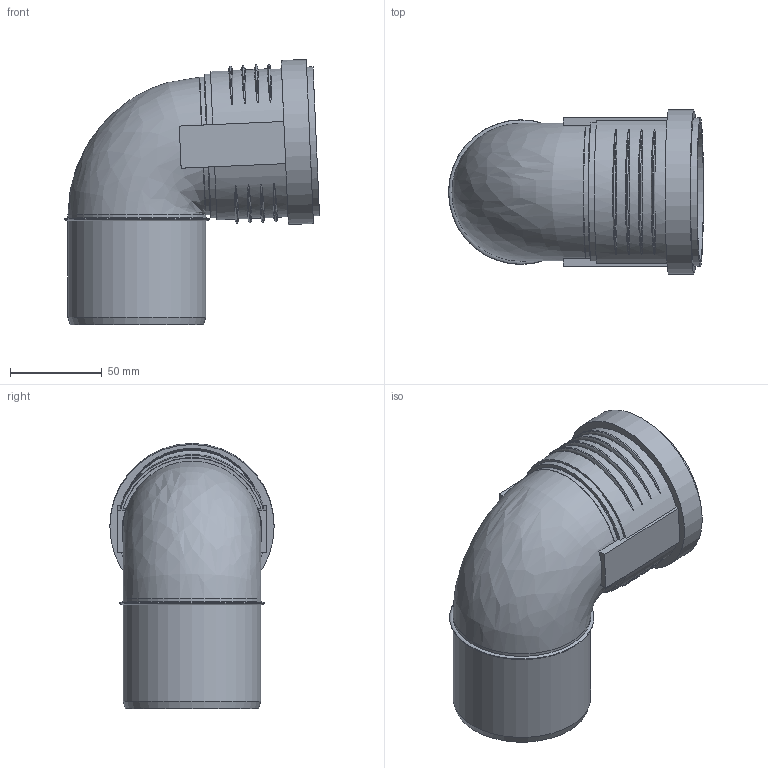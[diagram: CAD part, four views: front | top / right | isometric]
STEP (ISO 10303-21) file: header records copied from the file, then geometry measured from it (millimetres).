
FILE_DESCRIPTION(/* description */ (''),/* implementation_level */ '2;1');
FILE_NAME(/* name */ 'Z:\Geberit\Export\NewStep\390324.stp',/* time_stamp */ '2014-04-02T08:11:40+02:00',/* author */ ('ML'),/* organization */ (''),/* preprocessor_version */ 'ST-DEVELOPER v15.2',/* originating_system */ 'Autodesk Inventor 2014',/* authorisation */ '');
FILE_SCHEMA (('AUTOMOTIVE_DESIGN { 1 0 10303 214 3 1 1 }'));
Length unit declared in the file: millimetre
Products named in the file (3): 861330; 861402; 390324
Bounding box: 139.12 x 89.6 x 144.66 mm (x, y, z)
Volume: 122295.9 mm3; surface area: 97239.4 mm2
Topology: 2 solids, 2 shells, 68 faces, 162 edges, 109 vertices
Faces by surface type: torus 28, plane 19, cylinder 18, cone 2, bspline 1
Full cylindrical faces by diameter (mm): 70 x2, 70.2 x1, 75.2 x4, 76.2 x2, 81.2 x1, 84.6 x1, 89.6 x1
Entity records: 2726 total; most frequent: CARTESIAN_POINT 1150, DIRECTION 290, ORIENTED_EDGE 278, EDGE_CURVE 139, AXIS2_PLACEMENT_3D 127, VERTEX_POINT 106, EDGE_LOOP 103, STYLED_ITEM 70
